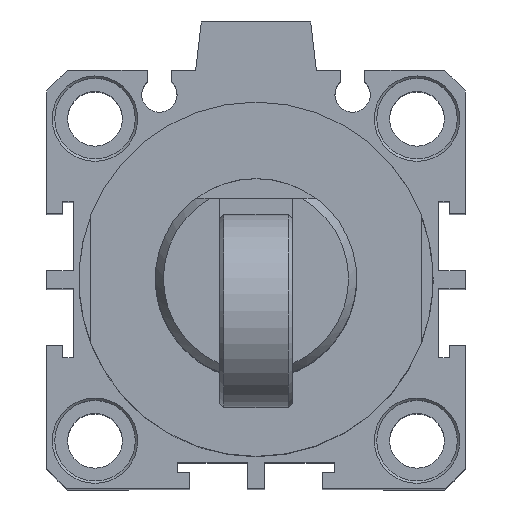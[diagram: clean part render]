
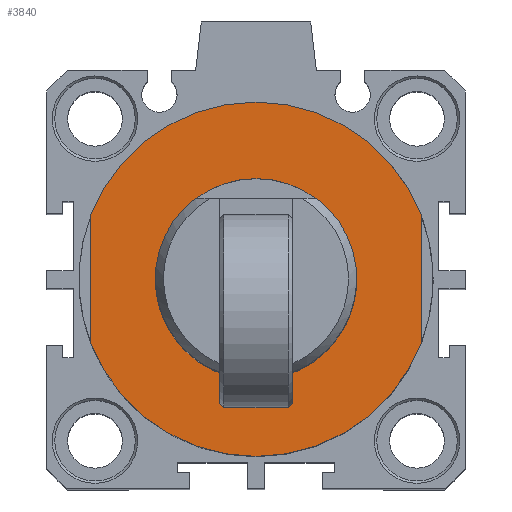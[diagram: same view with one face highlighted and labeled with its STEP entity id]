
A CAD part, top view. The second image highlights one B-rep face of the part: STEP entity #3840.
In plain terms, the highlighted planar face has unit normal (0, 0, 1).
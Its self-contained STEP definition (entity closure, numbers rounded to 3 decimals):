
#330=CARTESIAN_POINT('',(-6.902,11.555,100.2));
#331=VERTEX_POINT('',#330);
#338=CARTESIAN_POINT('',(8.098,11.555,100.2));
#339=VERTEX_POINT('',#338);
#340=CARTESIAN_POINT('',(0.598,1.555,100.2));
#341=DIRECTION('',(0.0,0.0,-1.0));
#342=DIRECTION('',(0.0,1.0,0.0));
#343=AXIS2_PLACEMENT_3D('',#340,#341,#342);
#344=CIRCLE('',#343,12.5);
#345=EDGE_CURVE('',#339,#331,#344,.T.);
#2796=CARTESIAN_POINT('',(21.098,-6.429,100.2));
#2797=VERTEX_POINT('',#2796);
#2804=CARTESIAN_POINT('',(-19.902,-6.429,100.2));
#2805=VERTEX_POINT('',#2804);
#2806=CARTESIAN_POINT('',(0.598,1.555,100.2));
#2807=DIRECTION('',(0.0,0.0,-1.0));
#2808=DIRECTION('',(0.0,1.0,0.0));
#2809=AXIS2_PLACEMENT_3D('',#2806,#2807,#2808);
#2810=CIRCLE('',#2809,22.);
#2811=EDGE_CURVE('',#2797,#2805,#2810,.T.);
#2830=CARTESIAN_POINT('',(-19.902,9.539,100.2));
#2831=VERTEX_POINT('',#2830);
#2838=CARTESIAN_POINT('',(21.098,9.539,100.2));
#2839=VERTEX_POINT('',#2838);
#2840=CARTESIAN_POINT('',(0.598,1.555,100.2));
#2841=DIRECTION('',(0.0,0.0,-1.0));
#2842=DIRECTION('',(0.0,1.0,0.0));
#2843=AXIS2_PLACEMENT_3D('',#2840,#2841,#2842);
#2844=CIRCLE('',#2843,22.);
#2845=EDGE_CURVE('',#2831,#2839,#2844,.T.);
#3809=CARTESIAN_POINT('',(0.598,18.805,100.2));
#3810=DIRECTION('',(0.0,0.0,1.0));
#3811=DIRECTION('',(1.0,0.0,0.0));
#3812=AXIS2_PLACEMENT_3D('',#3809,#3810,#3811);
#3813=PLANE('',#3812);
#3814=CARTESIAN_POINT('',(21.098,-6.429,100.2));
#3815=DIRECTION('',(0.0,1.0,0.0));
#3816=VECTOR('',#3815,15.969);
#3817=LINE('',#3814,#3816);
#3818=EDGE_CURVE('',#2797,#2839,#3817,.T.);
#3819=ORIENTED_EDGE('',*,*,#3818,.T.);
#3820=ORIENTED_EDGE('',*,*,#2845,.F.);
#3821=CARTESIAN_POINT('',(-19.902,9.539,100.2));
#3822=DIRECTION('',(0.0,-1.0,0.0));
#3823=VECTOR('',#3822,15.969);
#3824=LINE('',#3821,#3823);
#3825=EDGE_CURVE('',#2831,#2805,#3824,.T.);
#3826=ORIENTED_EDGE('',*,*,#3825,.T.);
#3827=ORIENTED_EDGE('',*,*,#2811,.F.);
#3828=EDGE_LOOP('',(#3819,#3820,#3826,#3827));
#3829=FACE_OUTER_BOUND('',#3828,.T.);
#3830=CARTESIAN_POINT('',(0.598,1.555,100.2));
#3831=DIRECTION('',(0.0,0.0,-1.0));
#3832=DIRECTION('',(0.0,1.0,0.0));
#3833=AXIS2_PLACEMENT_3D('',#3830,#3831,#3832);
#3834=CIRCLE('',#3833,12.5);
#3835=EDGE_CURVE('',#331,#339,#3834,.T.);
#3836=ORIENTED_EDGE('',*,*,#3835,.T.);
#3837=ORIENTED_EDGE('',*,*,#345,.T.);
#3838=EDGE_LOOP('',(#3836,#3837));
#3839=FACE_BOUND('',#3838,.T.);
#3840=ADVANCED_FACE('',(#3829,#3839),#3813,.T.);
